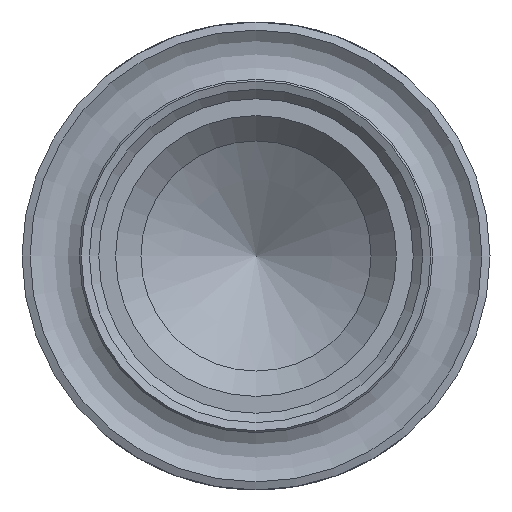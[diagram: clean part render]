
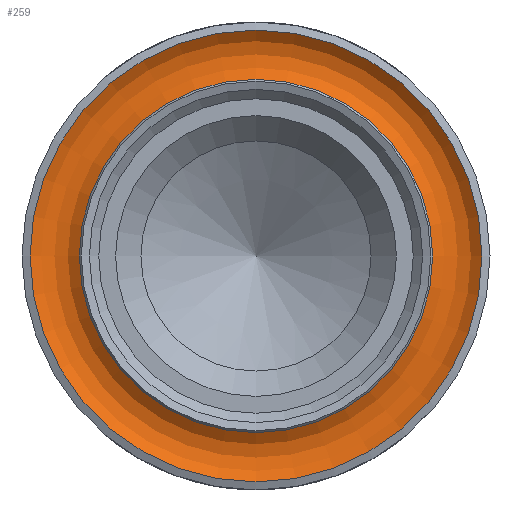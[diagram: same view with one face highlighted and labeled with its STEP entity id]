
A CAD part, left-side view. The second image highlights one B-rep face of the part: STEP entity #259.
In plain terms, the highlighted toroidal (fillet/blend) face has major radius 4.285 mm and minor radius 0.75 mm.
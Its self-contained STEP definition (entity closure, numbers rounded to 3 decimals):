
#24=TOROIDAL_SURFACE('',#303,4.285,0.75);
#79=ORIENTED_EDGE('',*,*,#124,.F.);
#80=ORIENTED_EDGE('',*,*,#123,.T.);
#123=EDGE_CURVE('',#150,#150,#164,.T.);
#124=EDGE_CURVE('',#151,#151,#165,.T.);
#150=VERTEX_POINT('',#493);
#151=VERTEX_POINT('',#496);
#164=CIRCLE('',#302,3.774);
#165=CIRCLE('',#304,4.828);
#188=EDGE_LOOP('',(#79));
#189=EDGE_LOOP('',(#80));
#225=FACE_BOUND('',#188,.T.);
#226=FACE_BOUND('',#189,.T.);
#259=ADVANCED_FACE('',(#225,#226),#24,.F.);
#302=AXIS2_PLACEMENT_3D('',#492,#361,#362);
#303=AXIS2_PLACEMENT_3D('',#494,#363,#364);
#304=AXIS2_PLACEMENT_3D('',#495,#365,#366);
#361=DIRECTION('',(1.,0.,0.));
#362=DIRECTION('',(0.,1.,0.));
#363=DIRECTION('',(1.,0.,0.));
#364=DIRECTION('',(0.,1.,0.));
#365=DIRECTION('',(1.,0.,0.));
#366=DIRECTION('',(0.,1.,0.));
#492=CARTESIAN_POINT('',(-19.683,0.,0.));
#493=CARTESIAN_POINT('',(-19.683,3.774,0.));
#494=CARTESIAN_POINT('',(-20.232,0.,0.));
#495=CARTESIAN_POINT('',(-19.714,0.,0.));
#496=CARTESIAN_POINT('',(-19.714,4.828,0.));
